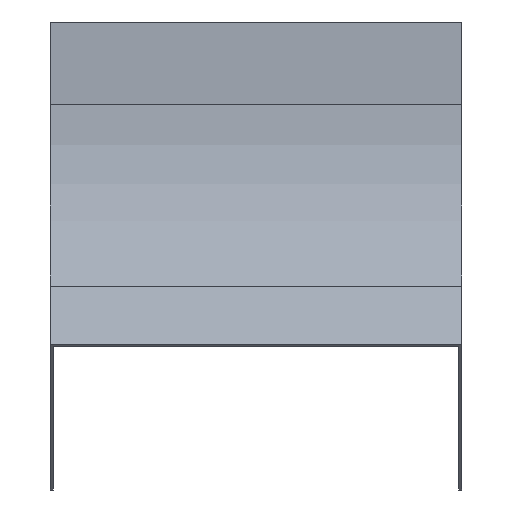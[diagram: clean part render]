
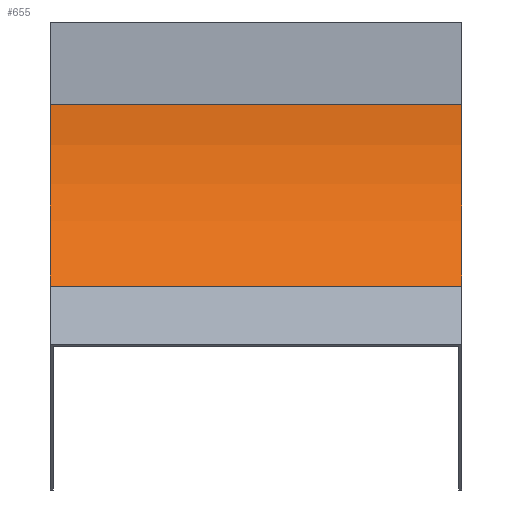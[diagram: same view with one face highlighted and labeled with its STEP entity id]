
A CAD part, front view. The second image highlights one B-rep face of the part: STEP entity #655.
In plain terms, the highlighted cylindrical face has radius 125 mm (diameter 250 mm), a partial arc.
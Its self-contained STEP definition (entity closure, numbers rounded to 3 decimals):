
#28 = ORIENTED_EDGE ( 'NONE', *, *, #921, .F. ) ;
#34 = EDGE_LOOP ( 'NONE', ( #807, #28, #599, #597 ) ) ;
#37 = EDGE_CURVE ( 'NONE', #556, #1460, #1486, .T. ) ;
#141 = DIRECTION ( 'NONE',  ( 0., 0., 1. ) ) ;
#189 = VERTEX_POINT ( 'NONE', #1017 ) ;
#230 = LINE ( 'NONE', #489, #237 ) ;
#237 = VECTOR ( 'NONE', #361, 1000. ) ;
#273 = VERTEX_POINT ( 'NONE', #1499 ) ;
#291 = AXIS2_PLACEMENT_3D ( 'NONE', #665, #820, #141 ) ;
#318 = AXIS2_PLACEMENT_3D ( 'NONE', #1570, #559, #1591 ) ;
#361 = DIRECTION ( 'NONE',  ( -1., 0., 0. ) ) ;
#427 = AXIS2_PLACEMENT_3D ( 'NONE', #812, #1344, #675 ) ;
#482 = CIRCLE ( 'NONE', #291, 125. ) ;
#489 = CARTESIAN_POINT ( 'NONE',  ( 100., -36.612, -128.388 ) ) ;
#556 = VERTEX_POINT ( 'NONE', #646 ) ;
#559 = DIRECTION ( 'NONE',  ( -1., 0., 0. ) ) ;
#597 = ORIENTED_EDGE ( 'NONE', *, *, #37, .T. ) ;
#599 = ORIENTED_EDGE ( 'NONE', *, *, #716, .F. ) ;
#642 = CIRCLE ( 'NONE', #427, 125. ) ;
#646 = CARTESIAN_POINT ( 'NONE',  ( 100., 0., -40. ) ) ;
#655 = ADVANCED_FACE ( 'NONE', ( #1471 ), #1062, .F. ) ;
#665 = CARTESIAN_POINT ( 'NONE',  ( 100., -125., -40. ) ) ;
#675 = DIRECTION ( 'NONE',  ( 0., 0., 1. ) ) ;
#716 = EDGE_CURVE ( 'NONE', #556, #273, #482, .T. ) ;
#807 = ORIENTED_EDGE ( 'NONE', *, *, #1481, .T. ) ;
#812 = CARTESIAN_POINT ( 'NONE',  ( -100., -125., -40. ) ) ;
#820 = DIRECTION ( 'NONE',  ( -1., 0., 0. ) ) ;
#831 = DIRECTION ( 'NONE',  ( -1., 0., 0. ) ) ;
#921 = EDGE_CURVE ( 'NONE', #273, #189, #230, .T. ) ;
#964 = CARTESIAN_POINT ( 'NONE',  ( 100., 0., -40. ) ) ;
#1017 = CARTESIAN_POINT ( 'NONE',  ( -100., -36.612, -128.388 ) ) ;
#1041 = VECTOR ( 'NONE', #831, 1000. ) ;
#1062 = CYLINDRICAL_SURFACE ( 'NONE', #318, 125. ) ;
#1344 = DIRECTION ( 'NONE',  ( -1., 0., 0. ) ) ;
#1460 = VERTEX_POINT ( 'NONE', #1533 ) ;
#1471 = FACE_OUTER_BOUND ( 'NONE', #34, .T. ) ;
#1481 = EDGE_CURVE ( 'NONE', #1460, #189, #642, .T. ) ;
#1486 = LINE ( 'NONE', #964, #1041 ) ;
#1499 = CARTESIAN_POINT ( 'NONE',  ( 100., -36.612, -128.388 ) ) ;
#1533 = CARTESIAN_POINT ( 'NONE',  ( -100., 0., -40. ) ) ;
#1570 = CARTESIAN_POINT ( 'NONE',  ( 100., -125., -40. ) ) ;
#1591 = DIRECTION ( 'NONE',  ( 0., 0., 1. ) ) ;
